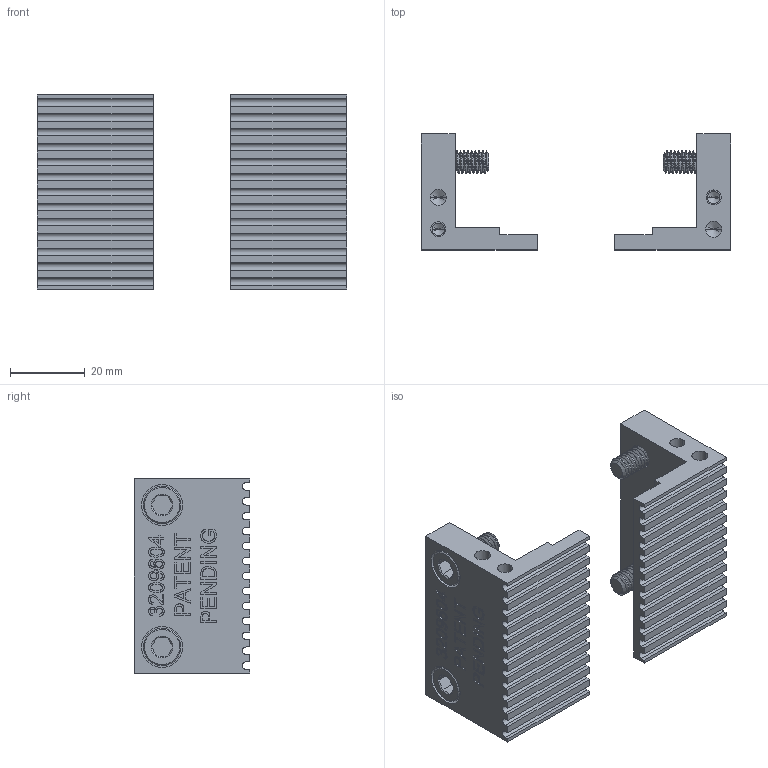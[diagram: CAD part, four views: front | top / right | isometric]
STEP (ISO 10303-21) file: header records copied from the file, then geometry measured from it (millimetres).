
FILE_DESCRIPTION (( 'STEP AP203' ), '1' );
FILE_NAME ('88001587.STEP', '2025-12-08T22:45:04', ( '' ), ( '' ), 'SwSTEP 2.0', 'SolidWorks 2024', '' );
FILE_SCHEMA (( 'CONFIG_CONTROL_DESIGN' ));
Length unit declared in the file: millimetre
Products named in the file (3): 3209604; 180903; 88001587
Assembly tree (6 placements, depth 2):
  88001587
    3209604  x2
    180903  x4
Bounding box: 82.73 x 31 x 52 mm (x, y, z)
Volume: 36515.7 mm3; surface area: 21885.8 mm2
Topology: 6 solids, 6 shells, 1034 faces, 2760 edges, 1804 vertices
Faces by surface type: plane 476, cylinder 266, bspline 212, cone 80
Entity records: 20699 total; most frequent: CARTESIAN_POINT 10273, ORIENTED_EDGE 2334, DIRECTION 1634, EDGE_CURVE 1167, VERTEX_POINT 771, LINE 762, VECTOR 762, EDGE_LOOP 482
